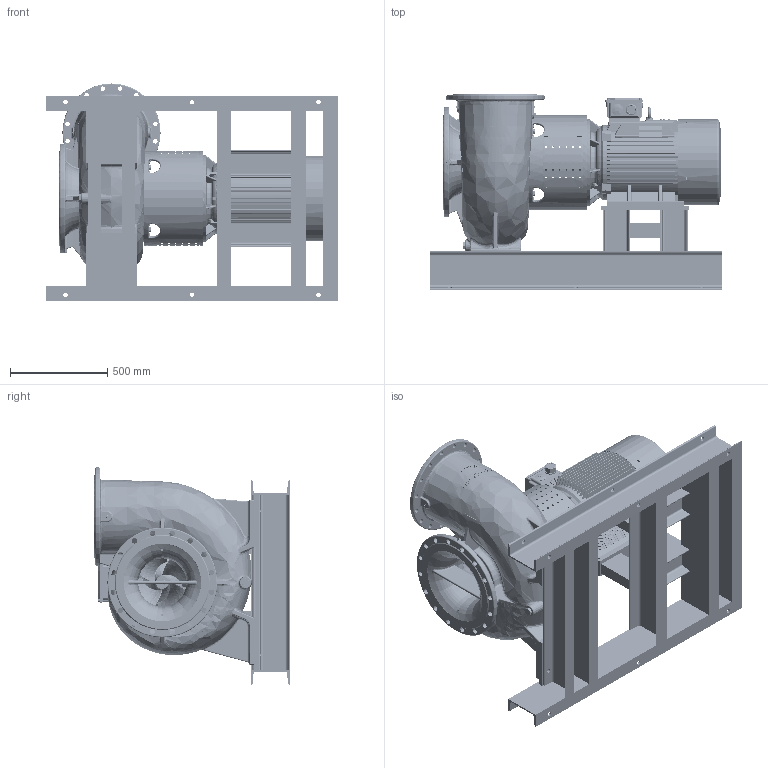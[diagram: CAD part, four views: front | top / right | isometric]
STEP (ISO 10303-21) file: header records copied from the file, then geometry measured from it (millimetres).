
FILE_DESCRIPTION((''),'2;1');
FILE_NAME('NSLH350-310_A02__ASM','2024-05-28T',('maxz'),(''),'PRO/ENGINEER BY PARAMETRIC TECHNOLOGY CORPORATION, 2017170','PRO/ENGINEER BY PARAMETRIC TECHNOLOGY CORPORATION, 2017170','');
FILE_SCHEMA(('CONFIG_CONTROL_DESIGN'));
Products named in the file (40): 595950; 598470; 598410; 117674; 700278; 506704; 704020; 703358; 114075; 702273; 700952; 506841; 704067; 707566; 712334; 700324; 710728_1; 710728_2; 710728_ASM; 700923; 117305; 725990_1; 725990_2; 725990_ASM; 507131; 705173; 704276; 112560; 567092; 704390; 704391; 704189; 506954; 696275_ASM; 107415; 598500; 854502; 110849; 117675_AF0; NSLH350-310_A02__ASM
Assembly tree (64 placements, depth 4):
  NSLH350-310_A02__ASM
    696275_ASM
      595950
      598470
      598410
      117674
      700278
      506704
      704020
      703358
      114075
      702273  x4
      700952  x2
      506841
      704067  x8
      707566  x8
      712334
      700324  x4
      710728_ASM
        710728_1
        710728_2
      700923
      117305
      725990_ASM
        725990_1
        725990_2
      507131
      705173
      704276
      112560
      567092
      704390  x4
      704391
      704189
      506954
    107415
    598500
    854502
    110849
    117675_AF0  x2
Bounding box: 1500 x 1005 x 1116.35 mm (x, y, z)
Volume: 154719704.9 mm3; surface area: 17626952.7 mm2
Topology: 93 solids, 151 shells, 6292 faces, 16441 edges, 10486 vertices
Faces by surface type: plane 2015, cylinder 1602, bspline 879, cone 654, extrusion 635, torus 392, sphere 109, revolution 6
Entity records: 289235 total; most frequent: CARTESIAN_POINT 153935, ORIENTED_EDGE 30082, DIRECTION 24316, EDGE_CURVE 15149, VERTEX_POINT 9748, AXIS2_PLACEMENT_3D 9051, EDGE_LOOP 6505, VECTOR 6208
